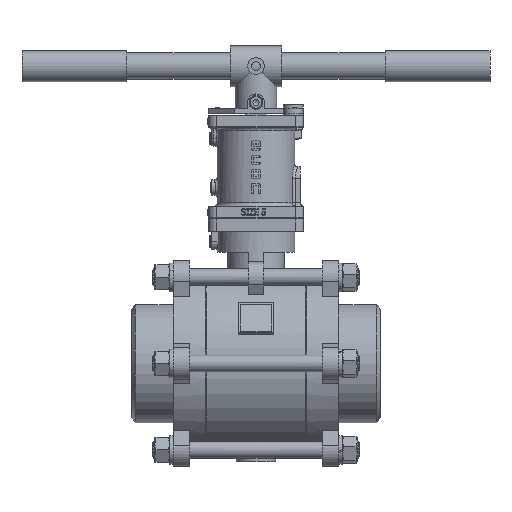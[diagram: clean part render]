
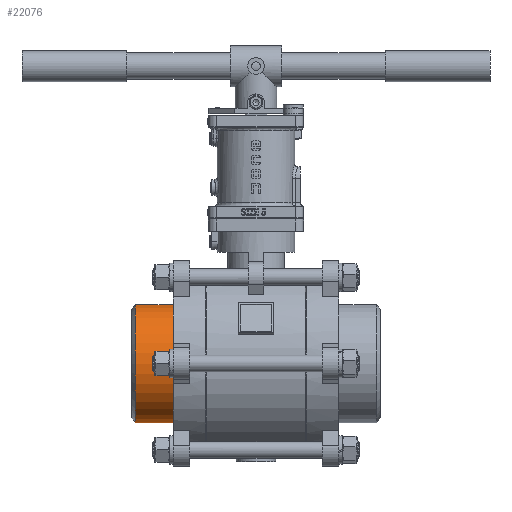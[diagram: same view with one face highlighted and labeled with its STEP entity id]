
A CAD part, top view. The second image highlights one B-rep face of the part: STEP entity #22076.
In plain terms, the highlighted cylindrical face has radius 57.15 mm (diameter 114.3 mm), a full revolution.
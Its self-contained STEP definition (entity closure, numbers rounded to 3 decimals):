
#3225=FACE_OUTER_BOUND('',#4504,.T.);
#4504=EDGE_LOOP('',(#18251,#18252,#18253,#18254,#18255,#18256));
#5728=CIRCLE('',#23818,57.15);
#5729=CIRCLE('',#23819,57.15);
#5741=CIRCLE('',#23855,57.15);
#5742=CIRCLE('',#23856,57.15);
#6950=LINE('',#35401,#8704);
#8704=VECTOR('',#27908,57.15);
#10773=VERTEX_POINT('',#35321);
#10774=VERTEX_POINT('',#35322);
#10791=VERTEX_POINT('',#35398);
#10792=VERTEX_POINT('',#35399);
#13403=EDGE_CURVE('',#10773,#10774,#5728,.T.);
#13404=EDGE_CURVE('',#10774,#10773,#5729,.T.);
#13438=EDGE_CURVE('',#10791,#10792,#5741,.T.);
#13439=EDGE_CURVE('',#10792,#10774,#6950,.T.);
#13440=EDGE_CURVE('',#10792,#10791,#5742,.T.);
#18251=ORIENTED_EDGE('',*,*,#13438,.T.);
#18252=ORIENTED_EDGE('',*,*,#13439,.T.);
#18253=ORIENTED_EDGE('',*,*,#13403,.F.);
#18254=ORIENTED_EDGE('',*,*,#13404,.F.);
#18255=ORIENTED_EDGE('',*,*,#13439,.F.);
#18256=ORIENTED_EDGE('',*,*,#13440,.T.);
#21365=CYLINDRICAL_SURFACE('',#23854,57.15);
#22076=ADVANCED_FACE('',(#3225),#21365,.T.);
#23818=AXIS2_PLACEMENT_3D('',#35323,#27810,#27811);
#23819=AXIS2_PLACEMENT_3D('',#35324,#27812,#27813);
#23854=AXIS2_PLACEMENT_3D('',#35397,#27904,#27905);
#23855=AXIS2_PLACEMENT_3D('',#35400,#27906,#27907);
#23856=AXIS2_PLACEMENT_3D('',#35402,#27909,#27910);
#27810=DIRECTION('center_axis',(1.,0.,0.));
#27811=DIRECTION('ref_axis',(0.,0.866,0.5));
#27812=DIRECTION('center_axis',(1.,0.,0.));
#27813=DIRECTION('ref_axis',(0.,0.866,0.5));
#27904=DIRECTION('center_axis',(-1.,0.,0.));
#27905=DIRECTION('ref_axis',(0.,0.866,0.5));
#27906=DIRECTION('center_axis',(1.,0.,0.));
#27907=DIRECTION('ref_axis',(0.,0.866,0.5));
#27908=DIRECTION('',(1.,0.,0.));
#27909=DIRECTION('center_axis',(1.,0.,0.));
#27910=DIRECTION('ref_axis',(0.,0.866,0.5));
#35321=CARTESIAN_POINT('',(-151.62,51.652,28.575));
#35322=CARTESIAN_POINT('',(-151.62,-47.334,-28.575));
#35323=CARTESIAN_POINT('Origin',(-151.62,2.159,0.));
#35324=CARTESIAN_POINT('Origin',(-151.62,2.159,0.));
#35397=CARTESIAN_POINT('Origin',(-171.87,2.159,0.));
#35398=CARTESIAN_POINT('',(-188.283,51.652,28.575));
#35399=CARTESIAN_POINT('',(-188.283,-47.334,-28.575));
#35400=CARTESIAN_POINT('Origin',(-188.283,2.159,0.));
#35401=CARTESIAN_POINT('',(-171.87,-47.334,-28.575));
#35402=CARTESIAN_POINT('Origin',(-188.283,2.159,0.));
